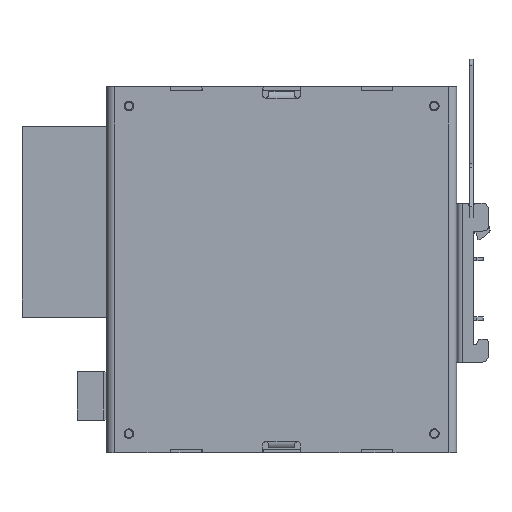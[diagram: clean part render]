
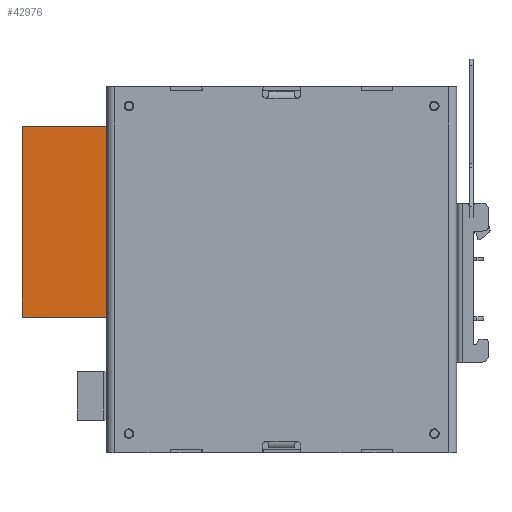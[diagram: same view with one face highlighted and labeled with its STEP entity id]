
A CAD part, front view. The second image highlights one B-rep face of the part: STEP entity #42976.
In plain terms, the highlighted planar face has unit normal (0, -1, 0).
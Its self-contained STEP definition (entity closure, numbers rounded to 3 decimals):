
#865 = LINE ( 'NONE', #70200, #21168 ) ;
#4832 = DIRECTION ( 'NONE',  ( -1., 0., 0. ) ) ;
#17384 = EDGE_LOOP ( 'NONE', ( #23278, #92024, #110084, #98752 ) ) ;
#19850 = DIRECTION ( 'NONE',  ( 0., -1., 0. ) ) ;
#20490 = LINE ( 'NONE', #34516, #63194 ) ;
#21168 = VECTOR ( 'NONE', #27824, 1000. ) ;
#22385 = LINE ( 'NONE', #81355, #39782 ) ;
#23278 = ORIENTED_EDGE ( 'NONE', *, *, #82907, .F. ) ;
#27824 = DIRECTION ( 'NONE',  ( 0., 0., -1. ) ) ;
#28089 = PLANE ( 'NONE',  #40236 ) ;
#28752 = EDGE_CURVE ( 'NONE', #48716, #42106, #32033, .T. ) ;
#32033 = LINE ( 'NONE', #60805, #74514 ) ;
#33641 = VERTEX_POINT ( 'NONE', #37605 ) ;
#34516 = CARTESIAN_POINT ( 'NONE',  ( -62.179, -14.125, -14.85 ) ) ;
#37605 = CARTESIAN_POINT ( 'NONE',  ( -54.81, -14.125, 45.15 ) ) ;
#39782 = VECTOR ( 'NONE', #4832, 1000. ) ;
#40236 = AXIS2_PLACEMENT_3D ( 'NONE', #70820, #19850, #79337 ) ;
#41276 = FACE_OUTER_BOUND ( 'NONE', #17384, .T. ) ;
#42106 = VERTEX_POINT ( 'NONE', #91378 ) ;
#42976 = ADVANCED_FACE ( 'NONE', ( #41276 ), #28089, .T. ) ;
#43921 = CARTESIAN_POINT ( 'NONE',  ( -81.61, -14.125, 45.15 ) ) ;
#48716 = VERTEX_POINT ( 'NONE', #43921 ) ;
#59927 = DIRECTION ( 'NONE',  ( 0., 0., -1. ) ) ;
#60737 = EDGE_CURVE ( 'NONE', #33641, #104966, #865, .T. ) ;
#60805 = CARTESIAN_POINT ( 'NONE',  ( -81.61, -14.125, 15.63 ) ) ;
#63194 = VECTOR ( 'NONE', #93799, 1000. ) ;
#70200 = CARTESIAN_POINT ( 'NONE',  ( -54.81, -14.125, -18.478 ) ) ;
#70820 = CARTESIAN_POINT ( 'NONE',  ( -55.729, -14.125, 15.63 ) ) ;
#74514 = VECTOR ( 'NONE', #59927, 1000. ) ;
#79337 = DIRECTION ( 'NONE',  ( 0., 0., -1. ) ) ;
#81355 = CARTESIAN_POINT ( 'NONE',  ( -55.729, -14.125, 45.15 ) ) ;
#82417 = CARTESIAN_POINT ( 'NONE',  ( -54.81, -14.125, -14.85 ) ) ;
#82907 = EDGE_CURVE ( 'NONE', #104966, #42106, #20490, .T. ) ;
#91378 = CARTESIAN_POINT ( 'NONE',  ( -81.61, -14.125, -14.85 ) ) ;
#92024 = ORIENTED_EDGE ( 'NONE', *, *, #60737, .F. ) ;
#93799 = DIRECTION ( 'NONE',  ( -1., 0., 0. ) ) ;
#96503 = EDGE_CURVE ( 'NONE', #33641, #48716, #22385, .T. ) ;
#98752 = ORIENTED_EDGE ( 'NONE', *, *, #28752, .T. ) ;
#104966 = VERTEX_POINT ( 'NONE', #82417 ) ;
#110084 = ORIENTED_EDGE ( 'NONE', *, *, #96503, .T. ) ;
